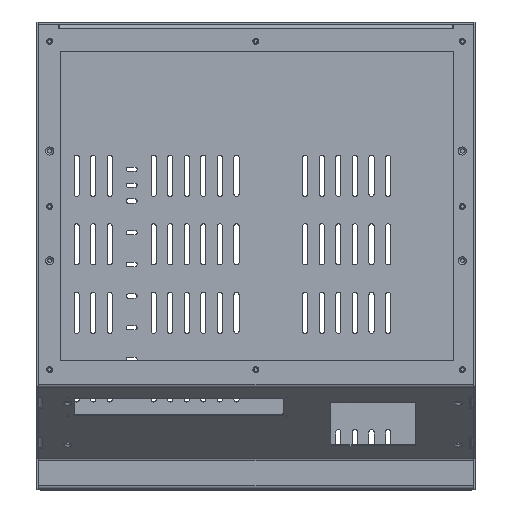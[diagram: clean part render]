
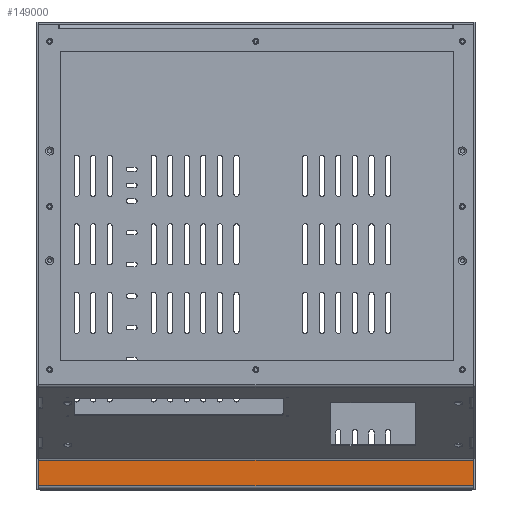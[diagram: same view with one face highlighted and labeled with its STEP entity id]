
A CAD part, top view. The second image highlights one B-rep face of the part: STEP entity #149000.
In plain terms, the highlighted planar face has unit normal (0, 0, 1).
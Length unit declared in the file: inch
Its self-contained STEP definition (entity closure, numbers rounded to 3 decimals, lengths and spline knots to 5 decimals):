
#136984 = VERTEX_POINT('',#136985);
#136985 = CARTESIAN_POINT('',(0.07,1.05999,1.5));
#137013 = CYLINDRICAL_SURFACE('',#137014,0.07);
#137014 = AXIS2_PLACEMENT_3D('',#137015,#137016,#137017);
#137015 = CARTESIAN_POINT('',(0.07,1.05999,1.57));
#137016 = DIRECTION('',(1.,0.,0.));
#137017 = DIRECTION('',(0.,0.862,
    -0.507));
#137036 = PLANE('',#137037);
#137037 = AXIS2_PLACEMENT_3D('',#137038,#137039,#137040);
#137038 = CARTESIAN_POINT('',(0.07,0.13,1.5));
#137039 = DIRECTION('',(1.,0.,0.));
#137040 = DIRECTION('',(0.,1.,0.));
#137207 = VERTEX_POINT('',#137208);
#137208 = CARTESIAN_POINT('',(15.93,1.05999,1.5));
#137255 = PLANE('',#137256);
#137256 = AXIS2_PLACEMENT_3D('',#137257,#137258,#137259);
#137257 = CARTESIAN_POINT('',(15.93,1.05999,1.5));
#137258 = DIRECTION('',(-1.,0.,0.));
#137259 = DIRECTION('',(0.,-1.,0.));
#137295 = VERTEX_POINT('',#137296);
#137296 = CARTESIAN_POINT('',(15.93,0.13,1.5));
#137352 = EDGE_CURVE('',#137207,#137295,#137353,.T.);
#137353 = SURFACE_CURVE('',#137354,(#137358,#137365),.PCURVE_S1.);
#137354 = LINE('',#137355,#137356);
#137355 = CARTESIAN_POINT('',(15.93,1.05999,1.5));
#137356 = VECTOR('',#137357,1.);
#137357 = DIRECTION('',(0.,-1.,0.));
#137358 = PCURVE('',#137255,#137359);
#137359 = DEFINITIONAL_REPRESENTATION('',(#137360),#137364);
#137360 = LINE('',#137361,#137362);
#137361 = CARTESIAN_POINT('',(0.,0.));
#137362 = VECTOR('',#137363,1.);
#137363 = DIRECTION('',(1.,0.));
#137364 = ( GEOMETRIC_REPRESENTATION_CONTEXT(2) 
PARAMETRIC_REPRESENTATION_CONTEXT() REPRESENTATION_CONTEXT('2D SPACE',''
  ) );
#137365 = PCURVE('',#137366,#137371);
#137366 = PLANE('',#137367);
#137367 = AXIS2_PLACEMENT_3D('',#137368,#137369,#137370);
#137368 = CARTESIAN_POINT('',(8.,0.59499,1.5));
#137369 = DIRECTION('',(0.,0.,-1.));
#137370 = DIRECTION('',(1.,0.,0.));
#137371 = DEFINITIONAL_REPRESENTATION('',(#137372),#137376);
#137372 = LINE('',#137373,#137374);
#137373 = CARTESIAN_POINT('',(7.93,-0.465));
#137374 = VECTOR('',#137375,1.);
#137375 = DIRECTION('',(0.,1.));
#137376 = ( GEOMETRIC_REPRESENTATION_CONTEXT(2) 
PARAMETRIC_REPRESENTATION_CONTEXT() REPRESENTATION_CONTEXT('2D SPACE',''
  ) );
#139372 = CYLINDRICAL_SURFACE('',#139373,0.13);
#139373 = AXIS2_PLACEMENT_3D('',#139374,#139375,#139376);
#139374 = CARTESIAN_POINT('',(0.07,0.13,1.37));
#139375 = DIRECTION('',(1.,0.,0.));
#139376 = DIRECTION('',(0.,0.,-1.));
#140771 = EDGE_CURVE('',#137295,#140772,#140774,.T.);
#140772 = VERTEX_POINT('',#140773);
#140773 = CARTESIAN_POINT('',(0.07,0.13,1.5));
#140774 = SURFACE_CURVE('',#140775,(#140778,#140784),.PCURVE_S1.);
#140775 = B_SPLINE_CURVE_WITH_KNOTS('',1,(#140776,#140777),
  .UNSPECIFIED.,.F.,.F.,(2,2),(0.,15.86),.PIECEWISE_BEZIER_KNOTS.);
#140776 = CARTESIAN_POINT('',(15.93,0.13,1.5));
#140777 = CARTESIAN_POINT('',(0.07,0.13,1.5));
#140778 = PCURVE('',#139372,#140779);
#140779 = DEFINITIONAL_REPRESENTATION('',(#140780),#140783);
#140780 = B_SPLINE_CURVE_WITH_KNOTS('',1,(#140781,#140782),
  .UNSPECIFIED.,.F.,.F.,(2,2),(0.,15.86),.PIECEWISE_BEZIER_KNOTS.);
#140781 = CARTESIAN_POINT('',(3.142,15.86));
#140782 = CARTESIAN_POINT('',(3.142,0.));
#140783 = ( GEOMETRIC_REPRESENTATION_CONTEXT(2) 
PARAMETRIC_REPRESENTATION_CONTEXT() REPRESENTATION_CONTEXT('2D SPACE',''
  ) );
#140784 = PCURVE('',#137366,#140785);
#140785 = DEFINITIONAL_REPRESENTATION('',(#140786),#140790);
#140786 = LINE('',#140787,#140788);
#140787 = CARTESIAN_POINT('',(7.93,0.465));
#140788 = VECTOR('',#140789,1.);
#140789 = DIRECTION('',(-1.,0.));
#140790 = ( GEOMETRIC_REPRESENTATION_CONTEXT(2) 
PARAMETRIC_REPRESENTATION_CONTEXT() REPRESENTATION_CONTEXT('2D SPACE',''
  ) );
#147440 = EDGE_CURVE('',#140772,#136984,#147441,.T.);
#147441 = SURFACE_CURVE('',#147442,(#147446,#147453),.PCURVE_S1.);
#147442 = LINE('',#147443,#147444);
#147443 = CARTESIAN_POINT('',(0.07,0.13,1.5));
#147444 = VECTOR('',#147445,1.);
#147445 = DIRECTION('',(0.,1.,0.));
#147446 = PCURVE('',#137036,#147447);
#147447 = DEFINITIONAL_REPRESENTATION('',(#147448),#147452);
#147448 = LINE('',#147449,#147450);
#147449 = CARTESIAN_POINT('',(0.,0.));
#147450 = VECTOR('',#147451,1.);
#147451 = DIRECTION('',(1.,0.));
#147452 = ( GEOMETRIC_REPRESENTATION_CONTEXT(2) 
PARAMETRIC_REPRESENTATION_CONTEXT() REPRESENTATION_CONTEXT('2D SPACE',''
  ) );
#147453 = PCURVE('',#137366,#147454);
#147454 = DEFINITIONAL_REPRESENTATION('',(#147455),#147459);
#147455 = LINE('',#147456,#147457);
#147456 = CARTESIAN_POINT('',(-7.93,0.465));
#147457 = VECTOR('',#147458,1.);
#147458 = DIRECTION('',(0.,-1.));
#147459 = ( GEOMETRIC_REPRESENTATION_CONTEXT(2) 
PARAMETRIC_REPRESENTATION_CONTEXT() REPRESENTATION_CONTEXT('2D SPACE',''
  ) );
#147574 = EDGE_CURVE('',#136984,#137207,#147575,.T.);
#147575 = SURFACE_CURVE('',#147576,(#147580,#147586),.PCURVE_S1.);
#147576 = LINE('',#147577,#147578);
#147577 = CARTESIAN_POINT('',(0.07,1.05999,1.5));
#147578 = VECTOR('',#147579,1.);
#147579 = DIRECTION('',(1.,0.,0.));
#147580 = PCURVE('',#137013,#147581);
#147581 = DEFINITIONAL_REPRESENTATION('',(#147582),#147585);
#147582 = B_SPLINE_CURVE_WITH_KNOTS('',1,(#147583,#147584),
  .UNSPECIFIED.,.F.,.F.,(2,2),(0.,15.86),.PIECEWISE_BEZIER_KNOTS.);
#147583 = CARTESIAN_POINT('',(5.245,0.));
#147584 = CARTESIAN_POINT('',(5.245,15.86));
#147585 = ( GEOMETRIC_REPRESENTATION_CONTEXT(2) 
PARAMETRIC_REPRESENTATION_CONTEXT() REPRESENTATION_CONTEXT('2D SPACE',''
  ) );
#147586 = PCURVE('',#137366,#147587);
#147587 = DEFINITIONAL_REPRESENTATION('',(#147588),#147592);
#147588 = LINE('',#147589,#147590);
#147589 = CARTESIAN_POINT('',(-7.93,-0.465));
#147590 = VECTOR('',#147591,1.);
#147591 = DIRECTION('',(1.,0.));
#147592 = ( GEOMETRIC_REPRESENTATION_CONTEXT(2) 
PARAMETRIC_REPRESENTATION_CONTEXT() REPRESENTATION_CONTEXT('2D SPACE',''
  ) );
#149000 = ADVANCED_FACE('',(#149001),#137366,.F.);
#149001 = FACE_BOUND('',#149002,.F.);
#149002 = EDGE_LOOP('',(#149003,#149004,#149005,#149006));
#149003 = ORIENTED_EDGE('',*,*,#147574,.T.);
#149004 = ORIENTED_EDGE('',*,*,#137352,.T.);
#149005 = ORIENTED_EDGE('',*,*,#140771,.T.);
#149006 = ORIENTED_EDGE('',*,*,#147440,.T.);
